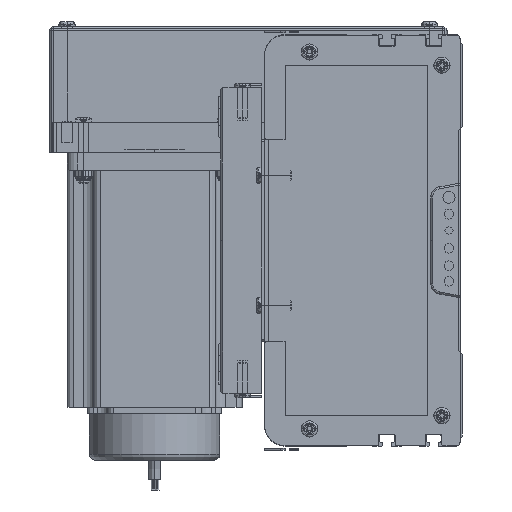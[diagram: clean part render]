
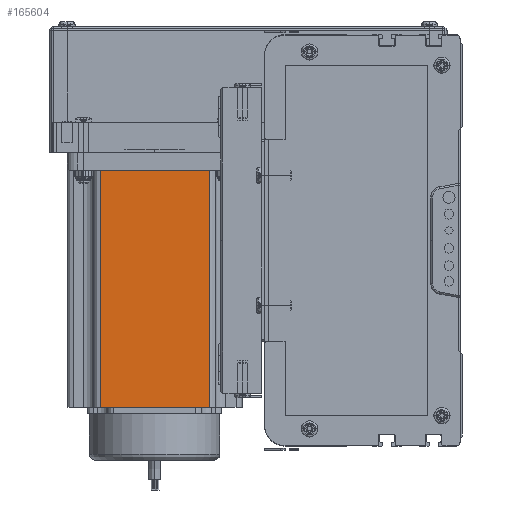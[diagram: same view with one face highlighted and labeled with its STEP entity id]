
A CAD part, left-side view. The second image highlights one B-rep face of the part: STEP entity #165604.
In plain terms, the highlighted planar face has unit normal (-1, 0, 0) as drawn and (0, -1, 0) by its records, which use the part's own axes.
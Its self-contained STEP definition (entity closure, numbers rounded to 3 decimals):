
#22629 = CARTESIAN_POINT ( 'NONE',  ( 69.74, 0., 0. ) ) ;
#23122 = DIRECTION ( 'NONE',  ( 0., 0., -1. ) ) ;
#23124 = VECTOR ( 'NONE', #23122, 1000. ) ;
#23125 = CARTESIAN_POINT ( 'NONE',  ( 16.16, 0., 116.5 ) ) ;
#23127 = LINE ( 'NONE', #23125, #23124 ) ;
#23131 = DIRECTION ( 'NONE',  ( 1., 0., 0. ) ) ;
#23132 = VECTOR ( 'NONE', #23131, 1000. ) ;
#23134 = CARTESIAN_POINT ( 'NONE',  ( 0., 0., 0. ) ) ;
#23223 = DIRECTION ( 'NONE',  ( 0., 0., 1. ) ) ;
#23225 = VECTOR ( 'NONE', #23223, 1000. ) ;
#23227 = CARTESIAN_POINT ( 'NONE',  ( 69.74, 0., 116.5 ) ) ;
#23229 = LINE ( 'NONE', #23227, #23225 ) ;
#23325 = LINE ( 'NONE', #23134, #23132 ) ;
#40673 = CARTESIAN_POINT ( 'NONE',  ( 0., 0., 116.5 ) ) ;
#40675 = LINE ( 'NONE', #40673, #40744 ) ;
#40742 = DIRECTION ( 'NONE',  ( 1., 0., 0. ) ) ;
#40744 = VECTOR ( 'NONE', #40742, 1000. ) ;
#97299 = DIRECTION ( 'NONE',  ( 0., 0., 1. ) ) ;
#97300 = DIRECTION ( 'NONE',  ( 0., 1., 0. ) ) ;
#97344 = CARTESIAN_POINT ( 'NONE',  ( 16.16, 0., 0. ) ) ;
#97408 = CARTESIAN_POINT ( 'NONE',  ( 69.74, 0., 116.5 ) ) ;
#97446 = PLANE ( 'NONE',  #97468 ) ;
#97453 = CARTESIAN_POINT ( 'NONE',  ( 16.16, 0., 116.5 ) ) ;
#97468 = AXIS2_PLACEMENT_3D ( 'NONE', #97480, #97300, #97299 ) ;
#97480 = CARTESIAN_POINT ( 'NONE',  ( 0., 0., 116.5 ) ) ;
#97583 = FACE_OUTER_BOUND ( 'NONE', #106231, .T. ) ;
#106231 = EDGE_LOOP ( 'NONE', ( #166314, #106279, #166050, #166236 ) ) ;
#106279 = ORIENTED_EDGE ( 'NONE', *, *, #166230, .T. ) ;
#106368 = EDGE_CURVE ( 'NONE', #165607, #165610, #40675, .T. ) ;
#165604 = ADVANCED_FACE ( 'NONE', ( #97583 ), #97446, .F. ) ;
#165607 = VERTEX_POINT ( 'NONE', #97453 ) ;
#165610 = VERTEX_POINT ( 'NONE', #97408 ) ;
#165713 = VERTEX_POINT ( 'NONE', #97344 ) ;
#166050 = ORIENTED_EDGE ( 'NONE', *, *, #106368, .F. ) ;
#166230 = EDGE_CURVE ( 'NONE', #166324, #165610, #23229, .T. ) ;
#166236 = ORIENTED_EDGE ( 'NONE', *, *, #166319, .T. ) ;
#166314 = ORIENTED_EDGE ( 'NONE', *, *, #166315, .T. ) ;
#166315 = EDGE_CURVE ( 'NONE', #165713, #166324, #23325, .T. ) ;
#166319 = EDGE_CURVE ( 'NONE', #165607, #165713, #23127, .T. ) ;
#166324 = VERTEX_POINT ( 'NONE', #22629 ) ;
